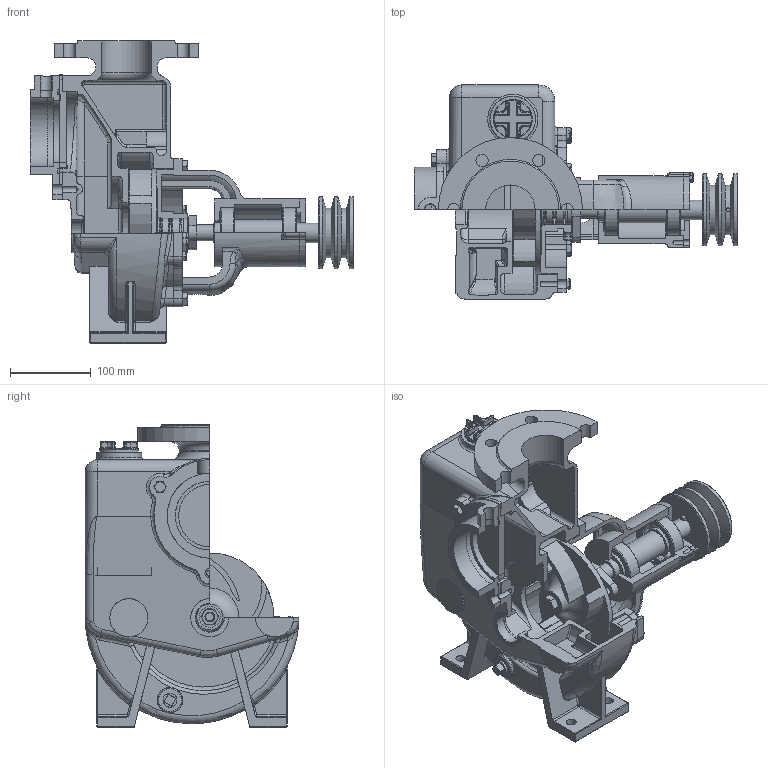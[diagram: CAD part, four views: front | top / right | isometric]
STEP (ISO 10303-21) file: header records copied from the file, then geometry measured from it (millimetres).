
FILE_DESCRIPTION(/* description */ (''),/* implementation_level */ '2;1');
FILE_NAME(/* name */ 'C:\Users\admin\Desktop\inventor\pompa centrifuga completa\step\pompa_centrifuga.stp',/* time_stamp */ '2021-10-14T16:25:50+02:00',/* author */ ('admin'),/* organization */ (''),/* preprocessor_version */ 'ST-DEVELOPER v18.1',/* originating_system */ 'Autodesk Inventor 2022',/* authorisation */ '');
FILE_SCHEMA (('AUTOMOTIVE_DESIGN { 1 0 10303 214 3 1 1 }'));
Length unit declared in the file: millimetre
Products named in the file (27): pompa_centrifuga; SHAFT; blade; Part2; body pompa; small pin; main pin; PULI; mur kuningan as; baut kotak; new small bolt; CAP; cover; cover bolt; FLANGE; SEAL CAP; v part; big ring; bolt_CPY; bolt_CPY_CPY; bolt; smal bolt; big seal; rope seal; ulir se6; small gold ring; DIN 625 SKF - SKF 6305-2RS1
Assembly tree (30 placements, depth 2):
  pompa_centrifuga
    SHAFT
    blade
    Part2
    body pompa
    small pin
    main pin
    PULI
    mur kuningan as
    baut kotak
    new small bolt
    bolt  x2
    CAP
    cover
    cover bolt
    FLANGE
    SEAL CAP
    v part
    big ring
    bolt_CPY
    bolt_CPY_CPY
    smal bolt  x2
    big seal
    rope seal  x2
    ulir se6
    small gold ring
    DIN 625 SKF - SKF 6305-2RS1  x2
Bounding box: 400 x 264 x 373 mm (x, y, z)
Volume: 3965371 mm3; surface area: 884814.1 mm2
Topology: 30 solids, 30 shells, 1344 faces, 3416 edges, 2079 vertices
Faces by surface type: cylinder 489, plane 422, torus 145, bspline 132, cone 91, sphere 65
Full cylindrical faces by diameter (mm): 4.917 x2, 6 x4, 6.647 x2, 7 x1, 7.798 x1, 8.376 x4, 9 x1, 9.5 x3, 9.525 x1, 10 x12, 10.106 x1, 12 x7, 15 x6, 15.164 x1, 16 x1, 17 x1, 20 x3, 21 x2, 24 x1, 25 x5, 26 x1, 30 x2, 31.039 x1, 32 x2, 32.5 x1, 36 x5, 36.84 x4, 42 x1, 47 x2, 47.5 x1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
Entity records: 46695 total; most frequent: CARTESIAN_POINT 15719, DIRECTION 6353, ORIENTED_EDGE 6212, EDGE_CURVE 3106, AXIS2_PLACEMENT_3D 2527, VERTEX_POINT 1932, EDGE_LOOP 1379, LINE 1299
